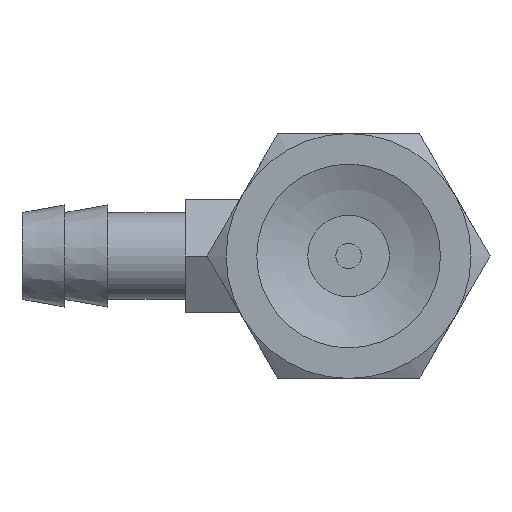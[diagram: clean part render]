
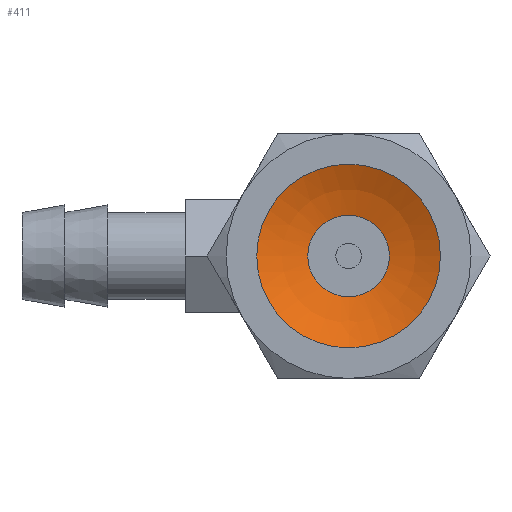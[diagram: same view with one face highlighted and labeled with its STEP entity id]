
A CAD part, front view. The second image highlights one B-rep face of the part: STEP entity #411.
In plain terms, the highlighted spherical face has radius 10.203 mm.
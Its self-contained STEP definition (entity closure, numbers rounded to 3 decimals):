
#411=ADVANCED_FACE('',(#643,#644),#645,.F.);
#643=FACE_OUTER_BOUND('',#914,.T.);
#644=FACE_OUTER_BOUND('',#915,.T.);
#645=SPHERICAL_SURFACE('',#916,10.203);
#914=EDGE_LOOP('',(#1526));
#915=EDGE_LOOP('',(#1527));
#916=AXIS2_PLACEMENT_3D('',#1528,#1529,#1530);
#1526=ORIENTED_EDGE('',*,*,#1817,.T.);
#1527=ORIENTED_EDGE('',*,*,#1813,.F.);
#1528=CARTESIAN_POINT('',(0.,-9.157,0.));
#1529=DIRECTION('',(0.0,-1.0,0.));
#1530=DIRECTION('',(1.0,0.0,0.0));
#1813=EDGE_CURVE('',#2098,#2098,#2099,.T.);
#1817=EDGE_CURVE('',#2106,#2106,#2107,.T.);
#2098=VERTEX_POINT('',#2643);
#2099=CIRCLE('',#2644,2.);
#2106=VERTEX_POINT('',#2651);
#2107=CIRCLE('',#2652,4.5);
#2643=CARTESIAN_POINT('',(0.0,0.848,-2.));
#2644=AXIS2_PLACEMENT_3D('',#2951,#2952,#2953);
#2651=CARTESIAN_POINT('',(0.0,0.,-4.5));
#2652=AXIS2_PLACEMENT_3D('',#2963,#2964,#2965);
#2951=CARTESIAN_POINT('',(0.0,0.848,0.0));
#2952=DIRECTION('',(0.0,-1.0,0.));
#2953=DIRECTION('',(0.0,0.,-1.0));
#2963=CARTESIAN_POINT('',(0.0,0.,0.0));
#2964=DIRECTION('',(0.0,-1.0,0.));
#2965=DIRECTION('',(0.0,0.,-1.0));
